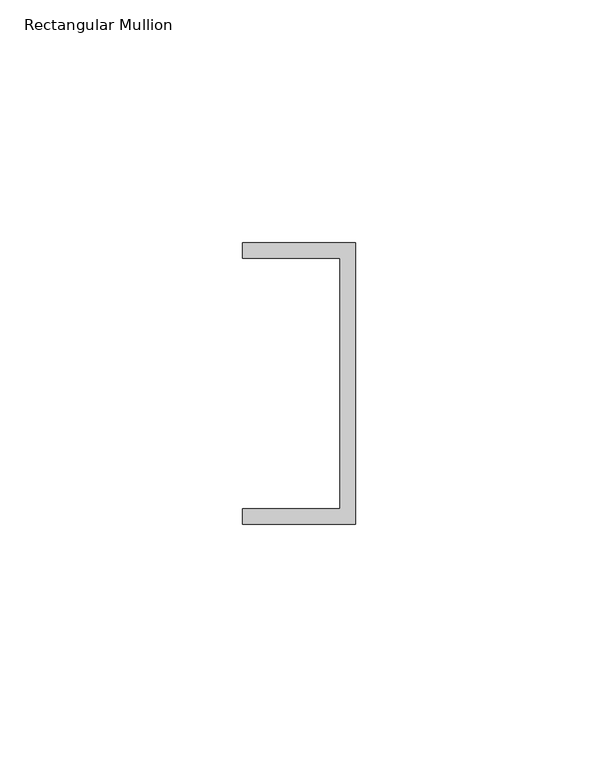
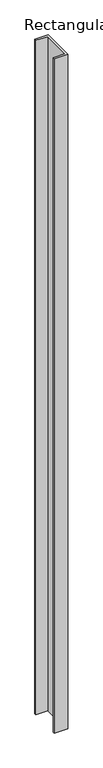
"""IFC4 building model written with IfcOpenShell, lengths in millimetres: member geometry, Rectangular Mullion : Frame-Teknion-Altos-Ceiling_Channel."""

from ifc_helpers import new_model, si_unit, frame, origin, place, context, project, spatial, polyline, outline, extrude, source, transform, mapped, element, save


def rectangular_mullion_eb0fbf71(model_context):
    return source(origin(), model_context, "Body", "SweptSolid", [
        extrude(outline(polyline([(0.0, 29.0214844), (0.0, -29.0214844), (-23.3164063, -29.0214844), (-23.3164063, -25.8464844), (-3.175, -25.8464844), (-3.175, 25.8464844), (-23.3164063, 25.8464844), (-23.3164063, 29.0214844), (0.0, 29.0214844)])), frame((0.0, 0.0, -1228.0304687), z_axis=(0.0, 0.0, 1.0), x_axis=(1.0, 0.0, 0.0)), (0.0, 0.0, 1.0), 1228.0304687),
    ])


if __name__ == "__main__":
    model = new_model("IFC4")
    model_context = context("Model", 3, world=origin())
    ifc_project = project(units=[si_unit("LENGTHUNIT", "METRE", prefix="MILLI")], contexts=[model_context])
    site = spatial("IfcSite", under=ifc_project)
    building = spatial("IfcBuilding", under=site)
    placement = place(None, origin())
    rectangular_mullion_shape = rectangular_mullion_eb0fbf71(model_context)
    element("IfcMember", 1, ObjectType="Rectangular Mullion : Frame-Teknion-Altos-Ceiling_Channel", at=placement, inside=building, context=model_context, shape_type="MappedRepresentation", body=[
        mapped(rectangular_mullion_shape, transform((0.0, 0.0, 0.0), x_axis=(1.0, 0.0, 0.0), y_axis=(0.0, 1.0, 0.0), z_axis=(0.0, 0.0, 1.0))),
    ])
    save(model, "model.ifc")
